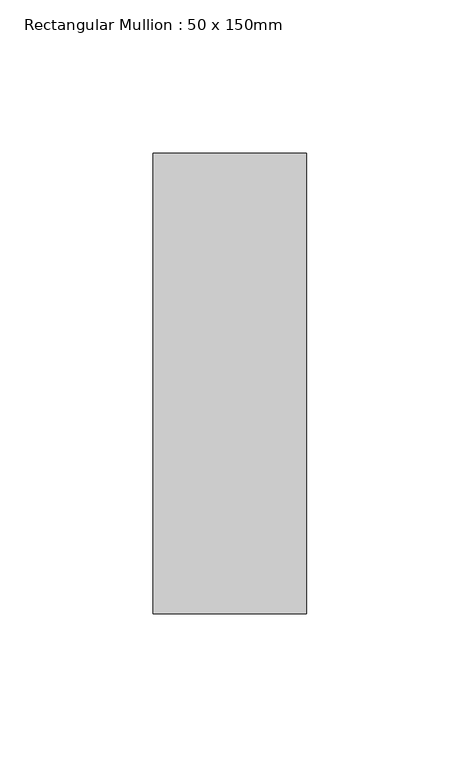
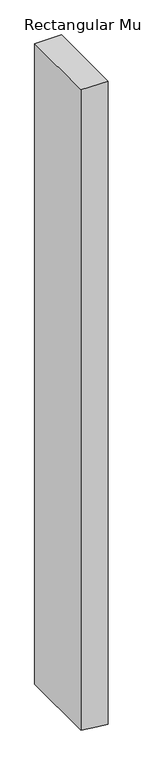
"""IFC4 building model written with IfcOpenShell, lengths in millimetres: member geometry, Rectangular Mullion : 50 x 150mm."""

import ifcopenshell
import ifcopenshell.guid

model = None  # the IFC model being written
_history = None  # IfcOwnerHistory: only IFC2X3 demands one
_inside = {}  # id of a spatial element -> (the spatial element, [elements in it])
_under = {}  # id of a project, library or spatial element -> (it, [spatial elements below it])
_declared = {}  # id of a project -> (the project, [libraries it declares])
_typed = {}  # id of a type object -> (the type object, [elements of that type])
_made_of = {}  # id of a material, layer set ... -> (it, [elements and type objects made of it])


def new_model(schema):
    """Start an empty IFC model of exactly this schema.

    Asked for "IFC4X3", IfcOpenShell would pick the latest addendum, in which some entities
    have other attributes; the version numbers below select the first issue.
    IFC2X3 requires an IfcOwnerHistory on every rooted entity: one is made here for all.
    """
    global model, _history
    if schema == "IFC4X3":
        model = ifcopenshell.file(schema_version=(4, 3, 0, 0))
    else:
        model = ifcopenshell.file(schema=schema)
    _inside.clear()
    _under.clear()
    _declared.clear()
    _typed.clear()
    _made_of.clear()
    _history = None
    if model.schema == "IFC2X3":
        org = make("IfcOrganization", Name="unknown")
        user = make(
            "IfcPersonAndOrganization",
            ThePerson=make("IfcPerson", FamilyName="unknown"),
            TheOrganization=org,
        )
        app = make(
            "IfcApplication",
            ApplicationDeveloper=org,
            Version="unknown",
            ApplicationFullName="unknown",
            ApplicationIdentifier="unknown",
        )
        _history = make(
            "IfcOwnerHistory",
            OwningUser=user,
            OwningApplication=app,
            ChangeAction="ADDED",
            CreationDate=0,
        )
    return model


def make(cls, **values):
    """One entity of the class cls with the attributes given. An attribute that is None is left unset."""
    return model.create_entity(
        cls, **{name: value for name, value in values.items() if value is not None}
    )


def rooted(cls, **values):
    """An entity with a GlobalId (a new one), such as an element, a storey or a relation."""
    return make(cls, GlobalId=ifcopenshell.guid.new(), OwnerHistory=_history, **values)


def si_unit(unit_type, name, prefix=None):
    """IfcSIUnit, for example si_unit("LENGTHUNIT", "METRE", prefix="MILLI")."""
    return make("IfcSIUnit", UnitType=unit_type, Prefix=prefix, Name=name)


def assignment(units):
    """IfcUnitAssignment: the units of a project."""
    return None if units is None else make("IfcUnitAssignment", Units=units)


def point(xyz):
    """IfcCartesianPoint."""
    return None if xyz is None else make("IfcCartesianPoint", Coordinates=xyz)


def direction(xyz):
    """IfcDirection."""
    return None if xyz is None else make("IfcDirection", DirectionRatios=xyz)


def frame(location, z_axis=None, x_axis=None):
    """IfcAxis2Placement3D, a coordinate frame: its origin and axes. An axis left out is left unset."""
    return make(
        "IfcAxis2Placement3D",
        Location=point(location),
        Axis=direction(z_axis),
        RefDirection=direction(x_axis),
    )


def origin():
    """The frame at (0, 0, 0) with its axes left unset."""
    return frame((0.0, 0.0, 0.0))


def place(relative_to, where):
    """IfcLocalPlacement: puts the frame where relative to a parent placement (None: the world)."""
    return make(
        "IfcLocalPlacement", PlacementRelTo=relative_to, RelativePlacement=where
    )


def context(
    kind, dimensions, precision=None, world=None, true_north=None, identifier=None
):
    """IfcGeometricRepresentationContext, for example the 3D "Model" context."""
    return make(
        "IfcGeometricRepresentationContext",
        ContextIdentifier=identifier,
        ContextType=kind,
        CoordinateSpaceDimension=dimensions,
        Precision=precision,
        WorldCoordinateSystem=world,
        TrueNorth=true_north,
    )


def project(units=None, contexts=None):
    """IfcProject with its units and contexts."""
    return rooted(
        "IfcProject",
        Name="project",
        RepresentationContexts=contexts,
        UnitsInContext=assignment(units),
    )


def spatial(cls, under=None, at=None, **own):
    """A site, building, storey or space (cls), placed at a placement, below another one or the project."""
    s = rooted(cls, ObjectPlacement=at, **own)
    if under is not None:
        _under.setdefault(under.id(), (under, []))[1].append(s)
    return s


def polyline(points):
    """IfcPolyline through the points."""
    return make("IfcPolyline", Points=[point(p) for p in points])


def outline(outer, holes=None, kind="AREA"):
    """IfcArbitraryClosedProfileDef: a profile drawn as a closed curve; with holes, ...WithVoids."""
    if holes is None:
        return make("IfcArbitraryClosedProfileDef", ProfileType=kind, OuterCurve=outer)
    return make(
        "IfcArbitraryProfileDefWithVoids",
        ProfileType=kind,
        OuterCurve=outer,
        InnerCurves=holes,
    )


def extrude(swept, where, along, depth):
    """IfcExtrudedAreaSolid: the profile swept, set in the frame where, extruded along a direction by depth."""
    return make(
        "IfcExtrudedAreaSolid",
        SweptArea=swept,
        Position=where,
        ExtrudedDirection=direction(along),
        Depth=depth,
    )


def shape(context_of_items, identifier, shape_type, items):
    """IfcShapeRepresentation: the items that make up one representation, for example the "Body"."""
    return make(
        "IfcShapeRepresentation",
        ContextOfItems=context_of_items,
        RepresentationIdentifier=identifier,
        RepresentationType=shape_type,
        Items=items,
    )


def source(mapping_origin, context_of_items, identifier, shape_type, items):
    """IfcRepresentationMap: a shape defined once, which mapped items show again and again."""
    return make(
        "IfcRepresentationMap",
        MappingOrigin=mapping_origin,
        MappedRepresentation=shape(context_of_items, identifier, shape_type, items),
    )


def transform(
    local_origin,
    x_axis=None,
    y_axis=None,
    z_axis=None,
    scale=None,
    scale2=None,
    scale3=None,
    uniform=True,
):
    """IfcCartesianTransformationOperator3D, or its non-uniform kind. x_axis, y_axis, z_axis: its Axis1, 2, 3."""
    if uniform:
        return make(
            "IfcCartesianTransformationOperator3D",
            Axis1=direction(x_axis),
            Axis2=direction(y_axis),
            LocalOrigin=point(local_origin),
            Scale=scale,
            Axis3=direction(z_axis),
        )
    return make(
        "IfcCartesianTransformationOperator3DnonUniform",
        Axis1=direction(x_axis),
        Axis2=direction(y_axis),
        LocalOrigin=point(local_origin),
        Scale=scale,
        Axis3=direction(z_axis),
        Scale2=scale2,
        Scale3=scale3,
    )


def mapped(mapping_source, mapping_target):
    """IfcMappedItem: shows the shape of a source again, moved by a transform."""
    return make(
        "IfcMappedItem", MappingSource=mapping_source, MappingTarget=mapping_target
    )


def made_of(thing, what):
    """Note that an element or type object is made of a material, layer set ...; save() writes the relation."""
    if what is not None:
        _made_of.setdefault(what.id(), (what, []))[1].append(thing)
    return thing


def element(
    cls,
    number,
    at=None,
    inside=None,
    cuts=None,
    type_object=None,
    material=None,
    context=None,
    identifier="Body",
    shape_type=None,
    held_by="IfcProductDefinitionShape",
    body=None,
    shapes=None,
    **own,
):
    """One element of the class cls, such as IfcWall. Its Tag is "e" and its number.

    at: its placement. inside: the storey or other place that contains it. cuts: it is an
    opening in that element (IfcRelVoidsElement). A single representation is given by context,
    identifier, shape_type and body (its items); several are given by shapes. held_by: the class
    of the entity that holds the representations. save() writes the other relations.
    """
    e = rooted(cls, Tag="e%d" % number, ObjectPlacement=at, **own)
    if body is not None:
        shapes = [shape(context, identifier, shape_type, body)]
    if shapes is not None:
        e.Representation = make(held_by, Representations=shapes)
    if inside is not None:
        _inside.setdefault(inside.id(), (inside, []))[1].append(e)
    if cuts is not None:
        rooted(
            "IfcRelVoidsElement", RelatingBuildingElement=cuts, RelatedOpeningElement=e
        )
    if type_object is not None:
        _typed.setdefault(type_object.id(), (type_object, []))[1].append(e)
    return made_of(e, material)


def aggregate(whole, parts):
    """IfcRelAggregates: a whole, such as a stair, and the parts it consists of."""
    return rooted("IfcRelAggregates", RelatingObject=whole, RelatedObjects=parts)


def save(model, path):
    """Write the relations noted so far, then the file.

    IfcRelAggregates (storeys below a building ...), IfcRelContainedInSpatialStructure (elements
    in a storey), IfcRelDefinesByType, IfcRelAssociatesMaterial and IfcRelDeclares: one each for
    every whole, place, type object, material and project.
    """
    for whole, parts in _under.values():
        aggregate(whole, parts)
    for where, things in _inside.values():
        rooted(
            "IfcRelContainedInSpatialStructure",
            RelatedElements=things,
            RelatingStructure=where,
        )
    for kind, things in _typed.values():
        rooted("IfcRelDefinesByType", RelatedObjects=things, RelatingType=kind)
    for what, things in _made_of.values():
        rooted("IfcRelAssociatesMaterial", RelatedObjects=things, RelatingMaterial=what)
    for by, libraries in _declared.values():
        rooted("IfcRelDeclares", RelatingContext=by, RelatedDefinitions=libraries)
    model.write(path)


def rectangular_mullion_50_x_150mm_084dcdfb(model_context):
    return source(origin(), model_context, "Body", "SweptSolid", [
        extrude(outline(polyline([(0.0, 25.0), (0.0, -25.0), (-1262.6810863, -25.0), (-1266.1612456, 5.6423937), (-1268.3597537, 25.0), (0.0, 25.0)])), frame((0.0, -75.0, 0.0), z_axis=(0.0, 1.0, 0.0), x_axis=(0.0, 0.0, 1.0)), (0.0, 0.0, 1.0), 150.0),
    ])


if __name__ == "__main__":
    model = new_model("IFC4")
    model_context = context("Model", 3, world=origin())
    ifc_project = project(units=[si_unit("LENGTHUNIT", "METRE", prefix="MILLI")], contexts=[model_context])
    site = spatial("IfcSite", under=ifc_project)
    building = spatial("IfcBuilding", under=site)
    placement = place(None, origin())
    rectangular_mullion_50_x_150mm_shape = rectangular_mullion_50_x_150mm_084dcdfb(model_context)
    element("IfcMember", 1, ObjectType="Rectangular Mullion : 50 x 150mm", at=placement, inside=building, context=model_context, shape_type="MappedRepresentation", body=[
        mapped(rectangular_mullion_50_x_150mm_shape, transform((0.0, 0.0, 0.0), x_axis=(1.0, 0.0, 0.0), y_axis=(0.0, 1.0, 0.0), z_axis=(0.0, 0.0, 1.0))),
    ])
    save(model, "model.ifc")
